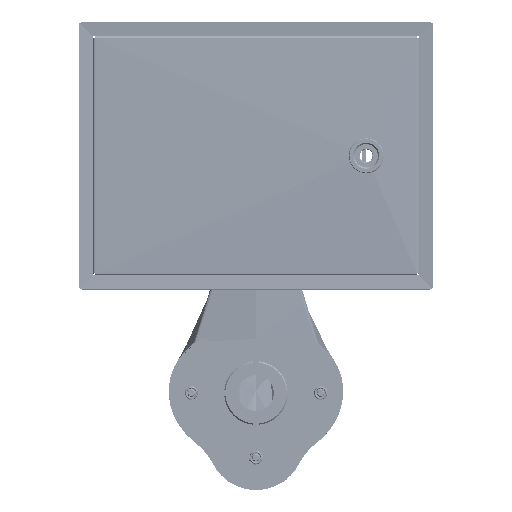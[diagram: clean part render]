
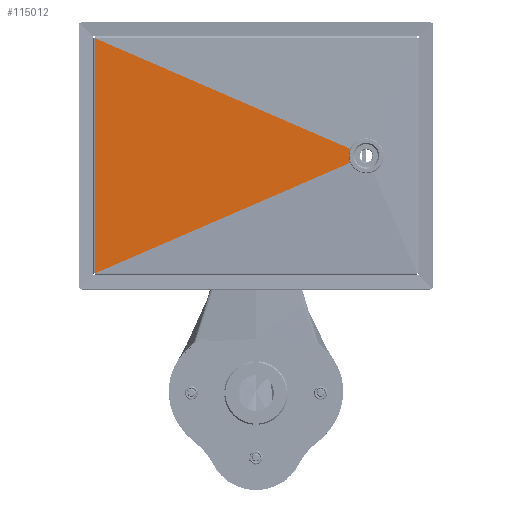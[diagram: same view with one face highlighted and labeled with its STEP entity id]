
A CAD part, front view. The second image highlights one B-rep face of the part: STEP entity #115012.
In plain terms, the highlighted planar face has unit normal (-0.011, -1, 0).
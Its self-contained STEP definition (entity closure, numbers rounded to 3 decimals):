
#5929 = DIRECTION ( 'NONE',  ( -0.917, 0.01, 0.398 ) ) ;
#8779 = DIRECTION ( 'NONE',  ( 1., -0.011, 0. ) ) ;
#10565 = CARTESIAN_POINT ( 'NONE',  ( 80.874, -33.438, 2.516 ) ) ;
#10781 = VERTEX_POINT ( 'NONE', #91118 ) ;
#11574 = CARTESIAN_POINT ( 'NONE',  ( 80.874, -33.438, -2.516 ) ) ;
#15498 = CARTESIAN_POINT ( 'NONE',  ( -126.65, -31.2, 92.462 ) ) ;
#21595 = CARTESIAN_POINT ( 'NONE',  ( 80.874, -33.438, -2.516 ) ) ;
#23474 = VECTOR ( 'NONE', #148731, 1000. ) ;
#31000 = CARTESIAN_POINT ( 'NONE',  ( 80.874, -33.438, 2.516 ) ) ;
#31424 = EDGE_CURVE ( 'NONE', #99948, #41458, #126527, .T. ) ;
#37540 = DIRECTION ( 'NONE',  ( 0., 0., -1. ) ) ;
#38224 = LINE ( 'NONE', #84851, #89077 ) ;
#39095 = VERTEX_POINT ( 'NONE', #64142 ) ;
#39977 = CARTESIAN_POINT ( 'NONE',  ( -126.663, -31.2, 92.45 ) ) ;
#41458 = VERTEX_POINT ( 'NONE', #192358 ) ;
#42667 = CARTESIAN_POINT ( 'NONE',  ( 80.165, -33.43, -0.888 ) ) ;
#46869 = DIRECTION ( 'NONE',  ( 0.011, 1., 0. ) ) ;
#54538 = ORIENTED_EDGE ( 'NONE', *, *, #80894, .F. ) ;
#57382 = ORIENTED_EDGE ( 'NONE', *, *, #192593, .T. ) ;
#60281 = EDGE_CURVE ( 'NONE', #112994, #101116, #100153, .T. ) ;
#61812 = EDGE_CURVE ( 'NONE', #39095, #10781, #87471, .T. ) ;
#63356 = DIRECTION ( 'NONE',  ( -0.917, 0.01, -0.398 ) ) ;
#64142 = CARTESIAN_POINT ( 'NONE',  ( -126.663, -31.2, 92.45 ) ) ;
#72765 = ORIENTED_EDGE ( 'NONE', *, *, #61812, .F. ) ;
#79977 = FACE_OUTER_BOUND ( 'NONE', #173729, .T. ) ;
#80894 = EDGE_CURVE ( 'NONE', #91774, #39095, #100082, .T. ) ;
#82015 = PLANE ( 'NONE',  #152978 ) ;
#84851 = CARTESIAN_POINT ( 'NONE',  ( -126.65, -31.2, 92.45 ) ) ;
#87471 = LINE ( 'NONE', #150640, #185309 ) ;
#89077 = VECTOR ( 'NONE', #148003, 1000. ) ;
#89928 = EDGE_CURVE ( 'NONE', #97405, #41458, #148337, .T. ) ;
#91118 = CARTESIAN_POINT ( 'NONE',  ( -126.65, -31.2, 92.45 ) ) ;
#91774 = VERTEX_POINT ( 'NONE', #202925 ) ;
#92302 = EDGE_CURVE ( 'NONE', #97405, #91774, #112536, .T. ) ;
#97405 = VERTEX_POINT ( 'NONE', #189159 ) ;
#97536 = CARTESIAN_POINT ( 'NONE',  ( -126.663, -31.2, 92.45 ) ) ;
#99948 = VERTEX_POINT ( 'NONE', #21595 ) ;
#100082 = LINE ( 'NONE', #39977, #23474 ) ;
#100153 = LINE ( 'NONE', #180890, #175085 ) ;
#101116 = VERTEX_POINT ( 'NONE', #15498 ) ;
#104534 = ORIENTED_EDGE ( 'NONE', *, *, #89928, .T. ) ;
#108478 = DIRECTION ( 'NONE',  ( -1., 0.011, 0. ) ) ;
#109486 = CARTESIAN_POINT ( 'NONE',  ( -126.663, -31.2, -92.45 ) ) ;
#112536 = LINE ( 'NONE', #109486, #169671 ) ;
#112994 = VERTEX_POINT ( 'NONE', #31000 ) ;
#115012 = ADVANCED_FACE ( 'NONE', ( #79977 ), #82015, .F. ) ;
#115774 = ORIENTED_EDGE ( 'NONE', *, *, #60281, .T. ) ;
#116128 = ORIENTED_EDGE ( 'NONE', *, *, #92302, .F. ) ;
#121546 = ORIENTED_EDGE ( 'NONE', *, *, #31424, .F. ) ;
#126527 = LINE ( 'NONE', #175148, #169075 ) ;
#132516 = ORIENTED_EDGE ( 'NONE', *, *, #186961, .F. ) ;
#136865 = CARTESIAN_POINT ( 'NONE',  ( 80.165, -33.43, 0.888 ) ) ;
#145139 = DIRECTION ( 'NONE',  ( -1., 0.011, 0. ) ) ;
#148003 = DIRECTION ( 'NONE',  ( 0., 0., -1. ) ) ;
#148337 = LINE ( 'NONE', #194979, #150210 ) ;
#148731 = DIRECTION ( 'NONE',  ( 0., 0., 1. ) ) ;
#150210 = VECTOR ( 'NONE', #37540, 1000. ) ;
#150640 = CARTESIAN_POINT ( 'NONE',  ( -126.663, -31.2, 92.45 ) ) ;
#152978 = AXIS2_PLACEMENT_3D ( 'NONE', #97536, #46869, #145139 ) ;
#169075 = VECTOR ( 'NONE', #63356, 1000. ) ;
#169671 = VECTOR ( 'NONE', #108478, 1000. ) ;
#173729 = EDGE_LOOP ( 'NONE', ( #121546, #132516, #115774, #57382, #72765, #54538, #116128, #104534 ) ) ;
#175085 = VECTOR ( 'NONE', #5929, 1000. ) ;
#175148 = CARTESIAN_POINT ( 'NONE',  ( -59.197, -31.927, -63.226 ) ) ;
#180890 = CARTESIAN_POINT ( 'NONE',  ( 86.644, -33.5, 0.015 ) ) ;
#185309 = VECTOR ( 'NONE', #8779, 1000. ) ;
#186961 = EDGE_CURVE ( 'NONE', #112994, #99948, #189913, .T. ) ;
#189159 = CARTESIAN_POINT ( 'NONE',  ( -126.65, -31.2, -92.45 ) ) ;
#189913 =( BOUNDED_CURVE ( )  B_SPLINE_CURVE ( 3, ( #10565, #136865, #42667, #11574 ),
 .UNSPECIFIED., .F., .T. ) 
 B_SPLINE_CURVE_WITH_KNOTS ( ( 4, 4 ),
 ( 5.872, 6.694 ),
 .UNSPECIFIED. ) 
 CURVE ( )  GEOMETRIC_REPRESENTATION_ITEM ( )  RATIONAL_B_SPLINE_CURVE ( ( 1., 0.945, 0.945, 1. ) ) 
 REPRESENTATION_ITEM ( '' )  );
#192358 = CARTESIAN_POINT ( 'NONE',  ( -126.65, -31.2, -92.462 ) ) ;
#192593 = EDGE_CURVE ( 'NONE', #101116, #10781, #38224, .T. ) ;
#194979 = CARTESIAN_POINT ( 'NONE',  ( -126.65, -31.2, 92.45 ) ) ;
#202925 = CARTESIAN_POINT ( 'NONE',  ( -126.663, -31.2, -92.45 ) ) ;
